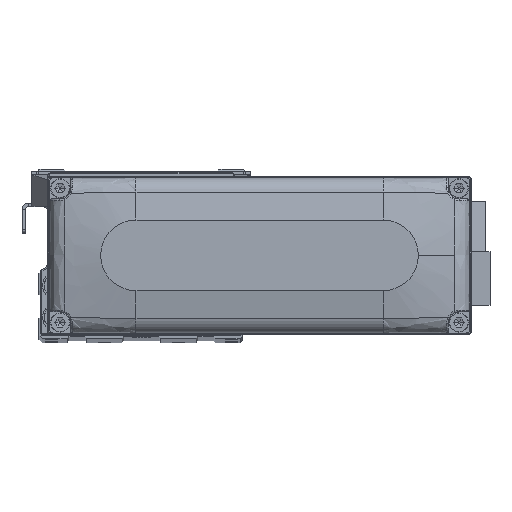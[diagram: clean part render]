
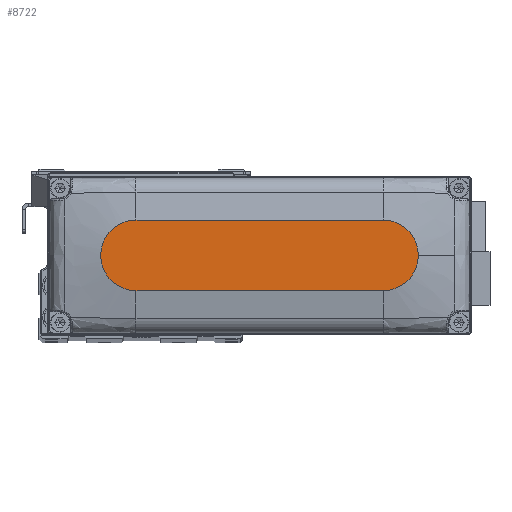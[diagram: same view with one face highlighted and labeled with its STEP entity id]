
A CAD part, top view. The second image highlights one B-rep face of the part: STEP entity #8722.
In plain terms, the highlighted planar face has unit normal (0, 0, 1).
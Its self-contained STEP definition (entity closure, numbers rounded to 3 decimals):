
#575 = PLANE ( 'NONE',  #36627 ) ;
#625 = EDGE_CURVE ( 'NONE', #36385, #12418, #26967, .T. ) ;
#2121 = VERTEX_POINT ( 'NONE', #30032 ) ;
#2483 = CARTESIAN_POINT ( 'NONE',  ( -35., -10., 28. ) ) ;
#3704 = EDGE_CURVE ( 'NONE', #2121, #36385, #14185, .T. ) ;
#4181 = DIRECTION ( 'NONE',  ( -1., 0., 0. ) ) ;
#5271 = CARTESIAN_POINT ( 'NONE',  ( -35., 0., 28. ) ) ;
#6059 = CARTESIAN_POINT ( 'NONE',  ( -35., 10., 28. ) ) ;
#7681 = AXIS2_PLACEMENT_3D ( 'NONE', #5271, #18707, #32065 ) ;
#8028 = AXIS2_PLACEMENT_3D ( 'NONE', #38158, #8083, #21515 ) ;
#8083 = DIRECTION ( 'NONE',  ( 0., 0., 1. ) ) ;
#8676 = DIRECTION ( 'NONE',  ( 0., 0., 1. ) ) ;
#8722 = ADVANCED_FACE ( 'NONE', ( #30695 ), #575, .T. ) ;
#11231 = ORIENTED_EDGE ( 'NONE', *, *, #39071, .T. ) ;
#12418 = VERTEX_POINT ( 'NONE', #41056 ) ;
#14003 = CARTESIAN_POINT ( 'NONE',  ( 0., 0., 28. ) ) ;
#14185 = CIRCLE ( 'NONE', #38726, 10. ) ;
#15754 = LINE ( 'NONE', #29147, #27702 ) ;
#17403 = ORIENTED_EDGE ( 'NONE', *, *, #625, .T. ) ;
#18707 = DIRECTION ( 'NONE',  ( 0., 0., 1. ) ) ;
#20926 = LINE ( 'NONE', #34288, #29433 ) ;
#21045 = CIRCLE ( 'NONE', #7681, 10. ) ;
#21515 = DIRECTION ( 'NONE',  ( 1., 0., 0. ) ) ;
#22113 = DIRECTION ( 'NONE',  ( 1., 0., 0. ) ) ;
#24001 = VERTEX_POINT ( 'NONE', #6059 ) ;
#24077 = ORIENTED_EDGE ( 'NONE', *, *, #3704, .T. ) ;
#24413 = VERTEX_POINT ( 'NONE', #2483 ) ;
#26967 = CIRCLE ( 'NONE', #8028, 10. ) ;
#27391 = DIRECTION ( 'NONE',  ( 0., 0., 1. ) ) ;
#27458 = ORIENTED_EDGE ( 'NONE', *, *, #39237, .T. ) ;
#27702 = VECTOR ( 'NONE', #42528, 1000. ) ;
#29147 = CARTESIAN_POINT ( 'NONE',  ( -35., -10., 28. ) ) ;
#29240 = EDGE_CURVE ( 'NONE', #24413, #2121, #15754, .T. ) ;
#29433 = VECTOR ( 'NONE', #4181, 1000. ) ;
#30032 = CARTESIAN_POINT ( 'NONE',  ( 35., -10., 28. ) ) ;
#30345 = CARTESIAN_POINT ( 'NONE',  ( 45., 0., 28. ) ) ;
#30404 = EDGE_LOOP ( 'NONE', ( #11231, #27458, #40160, #24077, #17403 ) ) ;
#30695 = FACE_OUTER_BOUND ( 'NONE', #30404, .T. ) ;
#32065 = DIRECTION ( 'NONE',  ( 1., 0., 0. ) ) ;
#34288 = CARTESIAN_POINT ( 'NONE',  ( -35., 10., 28. ) ) ;
#36385 = VERTEX_POINT ( 'NONE', #30345 ) ;
#36627 = AXIS2_PLACEMENT_3D ( 'NONE', #14003, #27391, #40775 ) ;
#38158 = CARTESIAN_POINT ( 'NONE',  ( 35., 0., 28. ) ) ;
#38726 = AXIS2_PLACEMENT_3D ( 'NONE', #38766, #8676, #22113 ) ;
#38766 = CARTESIAN_POINT ( 'NONE',  ( 35., 0., 28. ) ) ;
#39071 = EDGE_CURVE ( 'NONE', #12418, #24001, #20926, .T. ) ;
#39237 = EDGE_CURVE ( 'NONE', #24001, #24413, #21045, .T. ) ;
#40160 = ORIENTED_EDGE ( 'NONE', *, *, #29240, .T. ) ;
#40775 = DIRECTION ( 'NONE',  ( 1., 0., 0. ) ) ;
#41056 = CARTESIAN_POINT ( 'NONE',  ( 35., 10., 28. ) ) ;
#42528 = DIRECTION ( 'NONE',  ( 1., 0., 0. ) ) ;
